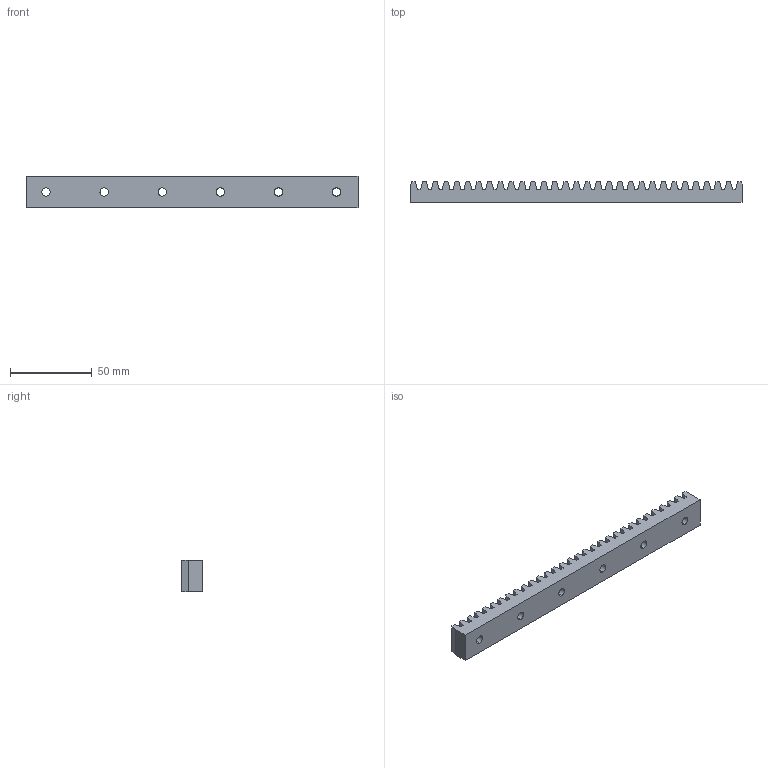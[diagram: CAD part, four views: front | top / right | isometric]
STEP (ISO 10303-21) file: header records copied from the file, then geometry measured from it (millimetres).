
FILE_DESCRIPTION (( 'STEP AP203' ), '1' );
FILE_NAME ('269-18-408.STEP', '2020-03-02T20:58:37', ( '' ), ( '' ), 'SwSTEP 2.0', 'SolidWorks 2017', '' );
FILE_SCHEMA (( 'CONFIG_CONTROL_DESIGN' ));
Length unit declared in the file: inch
Products named in the file (1): 269-18-408
Bounding box: 203.2 x 12.7 x 19.05 mm (x, y, z)
Volume: 37521.5 mm3; surface area: 17304.1 mm2
Topology: 1 solids, 1 shells, 263 faces, 783 edges, 522 vertices
Faces by surface type: plane 163, cylinder 100
Entity records: 9054 total; most frequent: CARTESIAN_POINT 1864, ORIENTED_EDGE 1566, DIRECTION 1439, EDGE_CURVE 783, VERTEX_POINT 522, LINE 513, VECTOR 513, AXIS2_PLACEMENT_3D 463
